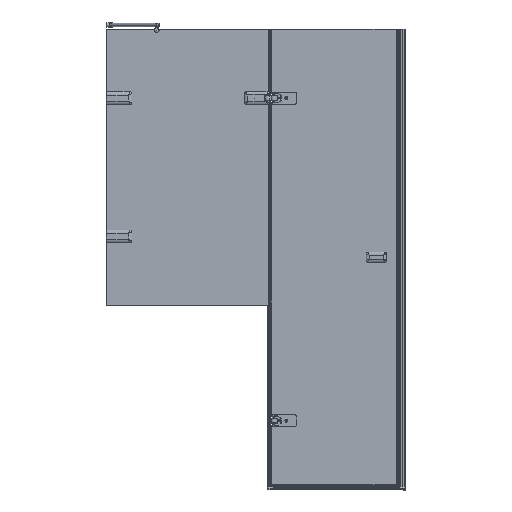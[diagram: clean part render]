
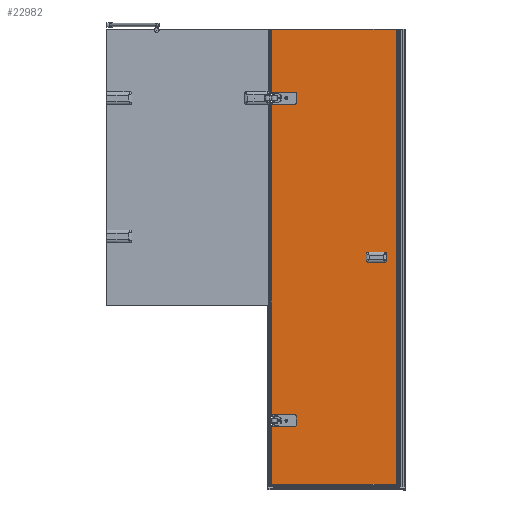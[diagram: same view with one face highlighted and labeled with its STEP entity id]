
A CAD part, front view. The second image highlights one B-rep face of the part: STEP entity #22982.
In plain terms, the highlighted planar face has unit normal (0, -1, 0).
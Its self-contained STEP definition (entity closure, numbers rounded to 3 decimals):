
#1055=FACE_BOUND($,#3600,.T.);
#1056=FACE_BOUND($,#3601,.T.);
#1057=FACE_BOUND($,#3602,.T.);
#1058=FACE_BOUND($,#3603,.T.);
#1059=FACE_BOUND($,#3604,.T.);
#1489=PLANE($,#24560);
#3600=EDGE_LOOP($,(#15992));
#3601=EDGE_LOOP($,(#15993));
#3602=EDGE_LOOP($,(#15994));
#3603=EDGE_LOOP($,(#15995));
#3604=EDGE_LOOP($,(#15996,#15997,#15998,#15999,#16000,#16001,#16002,#16003,
#16004,#16005,#16006,#16007,#16008,#16009,#16010,#16011));
#5341=LINE($,#34318,#7357);
#5345=LINE($,#34330,#7361);
#5350=LINE($,#34345,#7366);
#5354=LINE($,#34357,#7370);
#5359=LINE($,#34376,#7375);
#5362=LINE($,#34382,#7378);
#5365=LINE($,#34398,#7381);
#5366=LINE($,#34401,#7382);
#5373=LINE($,#34413,#7389);
#5374=LINE($,#34415,#7390);
#5375=LINE($,#34417,#7391);
#5376=LINE($,#34418,#7392);
#7357=VECTOR($,#27126,18.);
#7361=VECTOR($,#27138,32.);
#7366=VECTOR($,#27151,18.);
#7370=VECTOR($,#27163,32.);
#7375=VECTOR($,#27182,32.);
#7378=VECTOR($,#27187,32.);
#7381=VECTOR($,#27204,261.);
#7382=VECTOR($,#27207,281.);
#7389=VECTOR($,#27218,1362.);
#7390=VECTOR($,#27219,550.);
#7391=VECTOR($,#27220,1980.);
#7392=VECTOR($,#27221,550.);
#9371=CIRCLE($,#24528,10.);
#9373=CIRCLE($,#24532,10.);
#9375=CIRCLE($,#24536,10.);
#9377=CIRCLE($,#24540,10.);
#9380=CIRCLE($,#24545,5.5);
#9382=CIRCLE($,#24548,5.5);
#9384=CIRCLE($,#24553,8.);
#9386=CIRCLE($,#24556,8.);
#10374=VERTEX_POINT($,#34308);
#10375=VERTEX_POINT($,#34309);
#10378=VERTEX_POINT($,#34317);
#10380=VERTEX_POINT($,#34323);
#10382=VERTEX_POINT($,#34329);
#10384=VERTEX_POINT($,#34335);
#10385=VERTEX_POINT($,#34336);
#10388=VERTEX_POINT($,#34344);
#10390=VERTEX_POINT($,#34350);
#10392=VERTEX_POINT($,#34356);
#10395=VERTEX_POINT($,#34364);
#10397=VERTEX_POINT($,#34369);
#10399=VERTEX_POINT($,#34374);
#10401=VERTEX_POINT($,#34380);
#10403=VERTEX_POINT($,#34386);
#10405=VERTEX_POINT($,#34391);
#10407=VERTEX_POINT($,#34396);
#10408=VERTEX_POINT($,#34400);
#10412=VERTEX_POINT($,#34414);
#10413=VERTEX_POINT($,#34416);
#12627=EDGE_CURVE($,#10374,#10375,#9371,.T.);
#12631=EDGE_CURVE($,#10378,#10375,#5341,.T.);
#12634=EDGE_CURVE($,#10378,#10380,#9373,.T.);
#12637=EDGE_CURVE($,#10382,#10380,#5345,.T.);
#12640=EDGE_CURVE($,#10384,#10385,#9375,.T.);
#12644=EDGE_CURVE($,#10388,#10385,#5350,.T.);
#12647=EDGE_CURVE($,#10388,#10390,#9377,.T.);
#12650=EDGE_CURVE($,#10392,#10390,#5354,.T.);
#12654=EDGE_CURVE($,#10395,#10395,#9380,.T.);
#12656=EDGE_CURVE($,#10397,#10397,#9382,.T.);
#12659=EDGE_CURVE($,#10374,#10399,#5359,.T.);
#12662=EDGE_CURVE($,#10384,#10401,#5362,.T.);
#12664=EDGE_CURVE($,#10403,#10403,#9384,.T.);
#12666=EDGE_CURVE($,#10405,#10405,#9386,.T.);
#12669=EDGE_CURVE($,#10407,#10401,#5365,.T.);
#12670=EDGE_CURVE($,#10382,#10408,#5366,.T.);
#12677=EDGE_CURVE($,#10392,#10399,#5373,.T.);
#12678=EDGE_CURVE($,#10407,#10412,#5374,.T.);
#12679=EDGE_CURVE($,#10412,#10413,#5375,.T.);
#12680=EDGE_CURVE($,#10408,#10413,#5376,.T.);
#15992=ORIENTED_EDGE($,*,*,#12654,.T.);
#15993=ORIENTED_EDGE($,*,*,#12656,.T.);
#15994=ORIENTED_EDGE($,*,*,#12666,.T.);
#15995=ORIENTED_EDGE($,*,*,#12664,.T.);
#15996=ORIENTED_EDGE($,*,*,#12637,.T.);
#15997=ORIENTED_EDGE($,*,*,#12634,.F.);
#15998=ORIENTED_EDGE($,*,*,#12631,.T.);
#15999=ORIENTED_EDGE($,*,*,#12627,.F.);
#16000=ORIENTED_EDGE($,*,*,#12659,.T.);
#16001=ORIENTED_EDGE($,*,*,#12677,.F.);
#16002=ORIENTED_EDGE($,*,*,#12650,.T.);
#16003=ORIENTED_EDGE($,*,*,#12647,.F.);
#16004=ORIENTED_EDGE($,*,*,#12644,.T.);
#16005=ORIENTED_EDGE($,*,*,#12640,.F.);
#16006=ORIENTED_EDGE($,*,*,#12662,.T.);
#16007=ORIENTED_EDGE($,*,*,#12669,.F.);
#16008=ORIENTED_EDGE($,*,*,#12678,.T.);
#16009=ORIENTED_EDGE($,*,*,#12679,.T.);
#16010=ORIENTED_EDGE($,*,*,#12680,.F.);
#16011=ORIENTED_EDGE($,*,*,#12670,.F.);
#22982=ADVANCED_FACE($,(#1055,#1056,#1057,#1058,#1059),#1489,.T.);
#24528=AXIS2_PLACEMENT_3D($,#34310,#27118,#27119);
#24532=AXIS2_PLACEMENT_3D($,#34324,#27131,#27132);
#24536=AXIS2_PLACEMENT_3D($,#34337,#27143,#27144);
#24540=AXIS2_PLACEMENT_3D($,#34351,#27156,#27157);
#24545=AXIS2_PLACEMENT_3D($,#34365,#27170,#27171);
#24548=AXIS2_PLACEMENT_3D($,#34370,#27176,#27177);
#24553=AXIS2_PLACEMENT_3D($,#34387,#27192,#27193);
#24556=AXIS2_PLACEMENT_3D($,#34392,#27198,#27199);
#24560=AXIS2_PLACEMENT_3D($,#34412,#27216,#27217);
#27118=DIRECTION('center_axis',(0.,-1.,0.));
#27119=DIRECTION('ref_axis',(0.707,0.,-0.707));
#27126=DIRECTION($,(0.,0.,-1.));
#27131=DIRECTION('center_axis',(0.,-1.,0.));
#27132=DIRECTION('ref_axis',(0.707,0.,0.707));
#27138=DIRECTION($,(1.,0.,0.));
#27143=DIRECTION('center_axis',(0.,-1.,0.));
#27144=DIRECTION('ref_axis',(0.707,0.,-0.707));
#27151=DIRECTION($,(0.,0.,-1.));
#27156=DIRECTION('center_axis',(0.,-1.,0.));
#27157=DIRECTION('ref_axis',(0.707,0.,0.707));
#27163=DIRECTION($,(1.,0.,0.));
#27170=DIRECTION('center_axis',(0.,1.,0.));
#27171=DIRECTION('ref_axis',(-1.,0.,0.));
#27176=DIRECTION('center_axis',(0.,1.,0.));
#27177=DIRECTION('ref_axis',(-1.,0.,0.));
#27182=DIRECTION($,(-1.,0.,0.));
#27187=DIRECTION($,(-1.,0.,0.));
#27192=DIRECTION('center_axis',(0.,1.,0.));
#27193=DIRECTION('ref_axis',(-1.,0.,0.));
#27198=DIRECTION('center_axis',(0.,1.,0.));
#27199=DIRECTION('ref_axis',(-1.,0.,0.));
#27204=DIRECTION($,(0.,0.,1.));
#27207=DIRECTION($,(0.,0.,1.));
#27216=DIRECTION('center_axis',(0.,-1.,0.));
#27217=DIRECTION('ref_axis',(1.,0.,0.));
#27218=DIRECTION($,(0.,0.,1.));
#27219=DIRECTION($,(1.,0.,0.));
#27220=DIRECTION($,(0.,0.,1.));
#27221=DIRECTION($,(1.,0.,0.));
#34308=CARTESIAN_POINT('',(32.,0.,1661.));
#34309=CARTESIAN_POINT('',(42.,0.,1671.));
#34310=CARTESIAN_POINT('Origin',(32.,0.,1671.));
#34317=CARTESIAN_POINT('',(42.,0.,1689.));
#34318=CARTESIAN_POINT($,(42.,0.,849.5));
#34323=CARTESIAN_POINT('',(32.,0.,1699.));
#34324=CARTESIAN_POINT('Origin',(32.,0.,1689.));
#34329=CARTESIAN_POINT('',(0.,0.,1699.));
#34330=CARTESIAN_POINT($,(0.,0.,1699.));
#34335=CARTESIAN_POINT('',(32.,0.,261.));
#34336=CARTESIAN_POINT('',(42.,0.,271.));
#34337=CARTESIAN_POINT('Origin',(32.,0.,271.));
#34344=CARTESIAN_POINT('',(42.,0.,289.));
#34345=CARTESIAN_POINT($,(42.,0.,149.5));
#34350=CARTESIAN_POINT('',(32.,0.,299.));
#34351=CARTESIAN_POINT('Origin',(32.,0.,289.));
#34356=CARTESIAN_POINT('',(0.,0.,299.));
#34357=CARTESIAN_POINT($,(0.,0.,299.));
#34364=CARTESIAN_POINT('',(485.5,0.,976.));
#34365=CARTESIAN_POINT('Origin',(480.,0.,976.));
#34369=CARTESIAN_POINT('',(485.5,0.,1004.));
#34370=CARTESIAN_POINT('Origin',(480.,0.,1004.));
#34374=CARTESIAN_POINT('',(0.,0.,1661.));
#34376=CARTESIAN_POINT($,(21.,0.,1661.));
#34380=CARTESIAN_POINT('',(0.,0.,261.));
#34382=CARTESIAN_POINT($,(21.,0.,261.));
#34386=CARTESIAN_POINT('',(73.,0.,1680.));
#34387=CARTESIAN_POINT('Origin',(65.,0.,1680.));
#34391=CARTESIAN_POINT('',(73.,0.,280.));
#34392=CARTESIAN_POINT('Origin',(65.,0.,280.));
#34396=CARTESIAN_POINT('',(0.,0.,0.));
#34398=CARTESIAN_POINT($,(0.,0.,0.));
#34400=CARTESIAN_POINT('',(0.,0.,1980.));
#34401=CARTESIAN_POINT($,(0.,0.,0.));
#34412=CARTESIAN_POINT('Origin',(0.,0.,0.));
#34413=CARTESIAN_POINT($,(0.,0.,0.));
#34414=CARTESIAN_POINT('',(550.,0.,0.));
#34415=CARTESIAN_POINT($,(0.,0.,0.));
#34416=CARTESIAN_POINT('',(550.,0.,1980.));
#34417=CARTESIAN_POINT($,(550.,0.,0.));
#34418=CARTESIAN_POINT($,(0.,0.,1980.));
